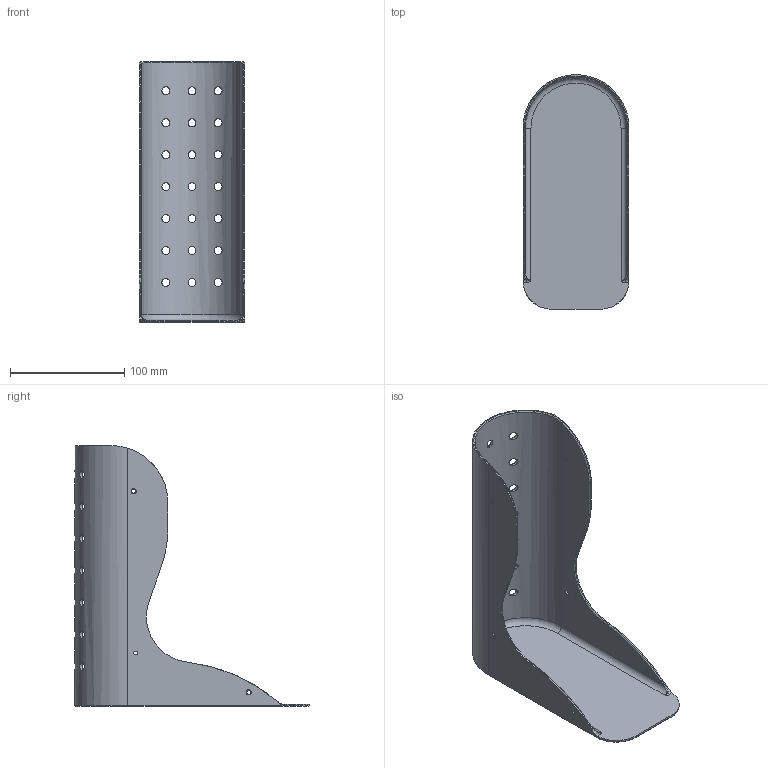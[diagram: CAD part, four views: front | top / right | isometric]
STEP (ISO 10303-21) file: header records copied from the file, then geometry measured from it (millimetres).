
FILE_DESCRIPTION(/* description */ (''),/* implementation_level */ '2;1');
FILE_NAME(/* name */ 'ICU Footcast.step',/* time_stamp */ '2025-11-05T07:45:32+01:00',/* author */ (''),/* organization */ (''),/* preprocessor_version */ 'ST-DEVELOPER v20.1',/* originating_system */ 'Autodesk Translation Framework v14.17.0.0',/* authorisation */ '');
FILE_SCHEMA (('AUTOMOTIVE_DESIGN { 1 0 10303 214 3 1 1 }'));
Length unit declared in the file: millimetre
Products named in the file (1): 2025-10-02-12-56-12-317
Bounding box: 92.9 x 205.2 x 228.6 mm (x, y, z)
Volume: 136050.5 mm3; surface area: 135724.1 mm2
Topology: 1 solids, 1 shells, 87 faces, 334 edges, 247 vertices
Faces by surface type: cylinder 50, torus 19, plane 12, bspline 6
Full cylindrical faces by diameter (mm): 3.5 x6, 7 x21
Entity records: 5375 total; most frequent: CARTESIAN_POINT 2628, ORIENTED_EDGE 664, DIRECTION 428, EDGE_CURVE 332, VERTEX_POINT 247, AXIS2_PLACEMENT_3D 177, B_SPLINE_CURVE_WITH_KNOTS 163, EDGE_LOOP 141
